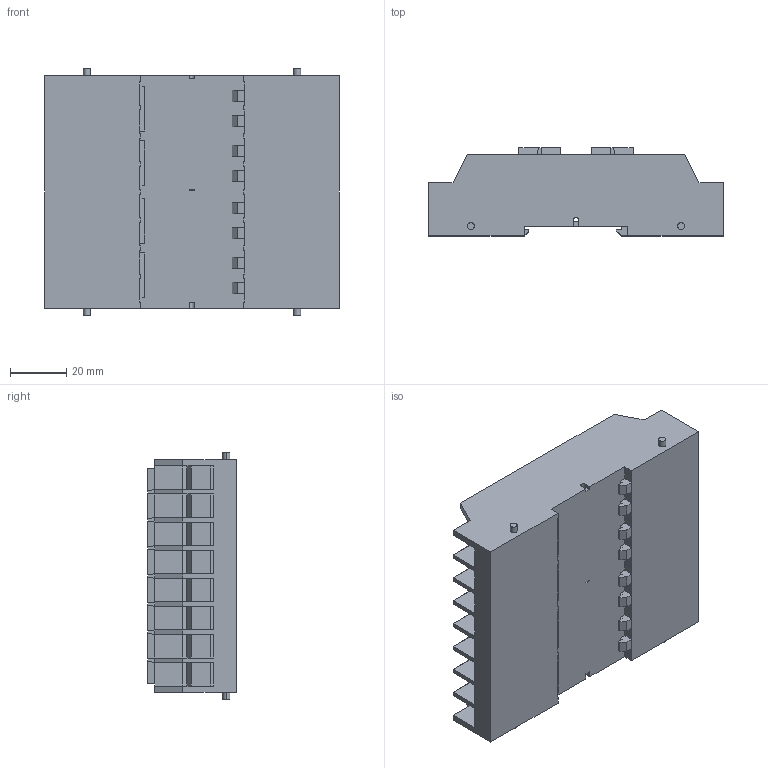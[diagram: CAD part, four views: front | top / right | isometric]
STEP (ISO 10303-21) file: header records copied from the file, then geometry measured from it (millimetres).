
FILE_DESCRIPTION (( 'STEP AP203' ), '1' );
FILE_NAME ('Base JN DE 2C IP10 v2.STEP', '2012-01-12T14:48:17', ( '.' ), ( '.' ), 'SwSTEP 2.0', 'SolidWorks 2011', '' );
FILE_SCHEMA (( 'CONFIG_CONTROL_DESIGN' ));
Length unit declared in the file: millimetre
Products named in the file (1): Base JN DE 2C IP10 v2
Bounding box: 105 x 31.5 x 88 mm (x, y, z)
Volume: 148790.5 mm3; surface area: 56044.7 mm2
Topology: 1 solids, 1 shells, 761 faces, 2164 edges, 1440 vertices
Faces by surface type: plane 748, cylinder 13
Entity records: 24369 total; most frequent: CARTESIAN_POINT 4366, ORIENTED_EDGE 4328, DIRECTION 3714, EDGE_CURVE 2164, LINE 2138, VECTOR 2138, VERTEX_POINT 1440, EDGE_LOOP 832
